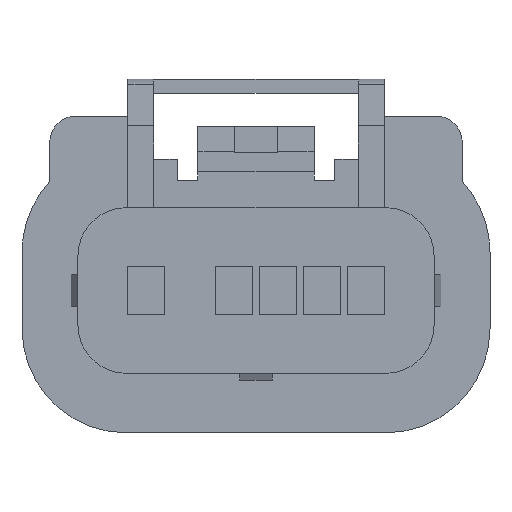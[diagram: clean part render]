
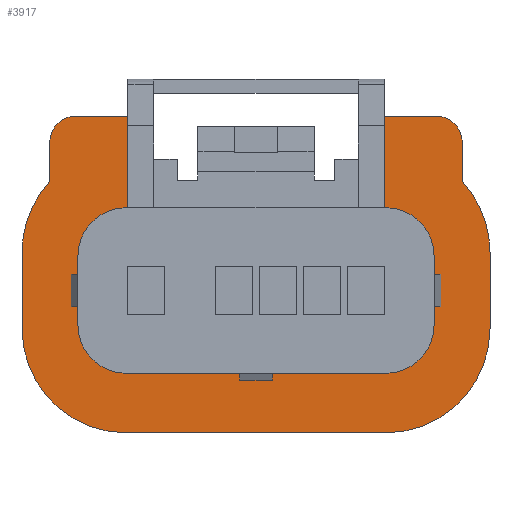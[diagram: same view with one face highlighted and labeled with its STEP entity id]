
A CAD part, left-side view. The second image highlights one B-rep face of the part: STEP entity #3917.
In plain terms, the highlighted planar face has unit normal (-1, 0, 0).
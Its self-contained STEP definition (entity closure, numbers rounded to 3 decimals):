
#690=CARTESIAN_POINT('Axis2P3D Location',(-19.88,0.,0.)) ;
#2587=CARTESIAN_POINT('Vertex',(-19.88,-7.4,12.99)) ;
#2590=CARTESIAN_POINT('Line Origine',(-19.88,-7.4,15.625)) ;
#2594=CARTESIAN_POINT('Vertex',(-19.88,-7.4,18.26)) ;
#2623=CARTESIAN_POINT('Vertex',(-19.88,7.4,18.26)) ;
#2626=CARTESIAN_POINT('Line Origine',(-19.88,7.4,15.625)) ;
#2630=CARTESIAN_POINT('Vertex',(-19.88,7.4,12.99)) ;
#2655=CARTESIAN_POINT('Line Origine',(-19.88,8.9,18.26)) ;
#2659=CARTESIAN_POINT('Vertex',(-19.88,10.4,18.26)) ;
#2674=CARTESIAN_POINT('Line Origine',(-19.88,-8.9,18.26)) ;
#2678=CARTESIAN_POINT('Vertex',(-19.88,-10.4,18.26)) ;
#2698=CARTESIAN_POINT('Axis2P3D Location',(-19.88,-10.4,16.76)) ;
#2702=CARTESIAN_POINT('Vertex',(-19.88,-11.9,16.76)) ;
#2722=CARTESIAN_POINT('Line Origine',(-19.88,-11.9,15.627)) ;
#2726=CARTESIAN_POINT('Vertex',(-19.88,-11.9,14.493)) ;
#2750=CARTESIAN_POINT('Vertex',(-19.88,-13.5,10.41)) ;
#2753=CARTESIAN_POINT('Axis2P3D Location',(-19.88,-7.49,10.41)) ;
#2770=CARTESIAN_POINT('Line Origine',(-19.88,-13.5,8.21)) ;
#2774=CARTESIAN_POINT('Vertex',(-19.88,-13.5,6.01)) ;
#2802=CARTESIAN_POINT('Vertex',(-19.88,13.5,6.01)) ;
#2805=CARTESIAN_POINT('Line Origine',(-19.88,13.5,8.21)) ;
#2809=CARTESIAN_POINT('Vertex',(-19.88,13.5,10.41)) ;
#2837=CARTESIAN_POINT('Vertex',(-19.88,11.9,14.493)) ;
#2840=CARTESIAN_POINT('Axis2P3D Location',(-19.88,7.49,10.41)) ;
#2857=CARTESIAN_POINT('Line Origine',(-19.88,11.9,15.627)) ;
#2861=CARTESIAN_POINT('Vertex',(-19.88,11.9,16.76)) ;
#2881=CARTESIAN_POINT('Axis2P3D Location',(-19.88,10.4,16.76)) ;
#2902=CARTESIAN_POINT('Vertex',(-19.88,-7.49,0.)) ;
#2905=CARTESIAN_POINT('Axis2P3D Location',(-19.88,-7.49,6.01)) ;
#2926=CARTESIAN_POINT('Vertex',(-19.88,7.49,0.)) ;
#2929=CARTESIAN_POINT('Line Origine',(-19.88,0.,0.)) ;
#2946=CARTESIAN_POINT('Axis2P3D Location',(-19.88,7.49,6.01)) ;
#3159=CARTESIAN_POINT('Vertex',(-19.88,-10.27,6.21)) ;
#3162=CARTESIAN_POINT('Line Origine',(-19.88,-10.27,8.21)) ;
#3166=CARTESIAN_POINT('Vertex',(-19.88,-10.27,10.21)) ;
#3224=CARTESIAN_POINT('Vertex',(-19.88,-7.49,3.43)) ;
#3227=CARTESIAN_POINT('Axis2P3D Location',(-19.88,-7.49,6.21)) ;
#3248=CARTESIAN_POINT('Vertex',(-19.88,7.49,3.43)) ;
#3251=CARTESIAN_POINT('Line Origine',(-19.88,0.,3.43)) ;
#3306=CARTESIAN_POINT('Vertex',(-19.88,10.27,6.21)) ;
#3309=CARTESIAN_POINT('Axis2P3D Location',(-19.88,7.49,6.21)) ;
#3330=CARTESIAN_POINT('Vertex',(-19.88,10.27,10.21)) ;
#3333=CARTESIAN_POINT('Line Origine',(-19.88,10.27,8.21)) ;
#3388=CARTESIAN_POINT('Vertex',(-19.88,7.49,12.99)) ;
#3391=CARTESIAN_POINT('Axis2P3D Location',(-19.88,7.49,10.21)) ;
#3403=CARTESIAN_POINT('Line Origine',(-19.88,7.445,12.99)) ;
#3419=CARTESIAN_POINT('Vertex',(-19.88,-7.49,12.99)) ;
#3422=CARTESIAN_POINT('Line Origine',(-19.88,-7.445,12.99)) ;
#3439=CARTESIAN_POINT('Axis2P3D Location',(-19.88,-7.49,10.21)) ;
#691=DIRECTION('Axis2P3D Direction',(1.,0.,0.)) ;
#692=DIRECTION('Axis2P3D XDirection',(0.,1.,0.)) ;
#2591=DIRECTION('Vector Direction',(0.,0.,-1.)) ;
#2627=DIRECTION('Vector Direction',(0.,0.,-1.)) ;
#2656=DIRECTION('Vector Direction',(0.,1.,0.)) ;
#2675=DIRECTION('Vector Direction',(0.,1.,0.)) ;
#2699=DIRECTION('Axis2P3D Direction',(-1.,0.,0.)) ;
#2723=DIRECTION('Vector Direction',(0.,0.,1.)) ;
#2754=DIRECTION('Axis2P3D Direction',(1.,0.,0.)) ;
#2771=DIRECTION('Vector Direction',(0.,0.,-1.)) ;
#2806=DIRECTION('Vector Direction',(0.,0.,1.)) ;
#2841=DIRECTION('Axis2P3D Direction',(1.,0.,0.)) ;
#2858=DIRECTION('Vector Direction',(0.,0.,-1.)) ;
#2882=DIRECTION('Axis2P3D Direction',(-1.,0.,0.)) ;
#2906=DIRECTION('Axis2P3D Direction',(1.,0.,0.)) ;
#2930=DIRECTION('Vector Direction',(0.,-1.,0.)) ;
#2947=DIRECTION('Axis2P3D Direction',(1.,0.,0.)) ;
#3163=DIRECTION('Vector Direction',(0.,0.,1.)) ;
#3228=DIRECTION('Axis2P3D Direction',(1.,0.,0.)) ;
#3252=DIRECTION('Vector Direction',(0.,-1.,0.)) ;
#3310=DIRECTION('Axis2P3D Direction',(1.,0.,0.)) ;
#3334=DIRECTION('Vector Direction',(0.,0.,-1.)) ;
#3392=DIRECTION('Axis2P3D Direction',(1.,0.,0.)) ;
#3404=DIRECTION('Vector Direction',(0.,1.,0.)) ;
#3423=DIRECTION('Vector Direction',(0.,1.,0.)) ;
#3440=DIRECTION('Axis2P3D Direction',(1.,0.,0.)) ;
#693=AXIS2_PLACEMENT_3D('Plane Axis2P3D',#690,#691,#692) ;
#2700=AXIS2_PLACEMENT_3D('Circle Axis2P3D',#2698,#2699,$) ;
#2755=AXIS2_PLACEMENT_3D('Circle Axis2P3D',#2753,#2754,$) ;
#2842=AXIS2_PLACEMENT_3D('Circle Axis2P3D',#2840,#2841,$) ;
#2883=AXIS2_PLACEMENT_3D('Circle Axis2P3D',#2881,#2882,$) ;
#2907=AXIS2_PLACEMENT_3D('Circle Axis2P3D',#2905,#2906,$) ;
#2948=AXIS2_PLACEMENT_3D('Circle Axis2P3D',#2946,#2947,$) ;
#3229=AXIS2_PLACEMENT_3D('Circle Axis2P3D',#3227,#3228,$) ;
#3311=AXIS2_PLACEMENT_3D('Circle Axis2P3D',#3309,#3310,$) ;
#3393=AXIS2_PLACEMENT_3D('Circle Axis2P3D',#3391,#3392,$) ;
#3441=AXIS2_PLACEMENT_3D('Circle Axis2P3D',#3439,#3440,$) ;
#3892=ORIENTED_EDGE('',*,*,#2885,.F.) ;
#3893=ORIENTED_EDGE('',*,*,#2863,.T.) ;
#3894=ORIENTED_EDGE('',*,*,#2844,.F.) ;
#3895=ORIENTED_EDGE('',*,*,#2811,.F.) ;
#3896=ORIENTED_EDGE('',*,*,#2950,.F.) ;
#3897=ORIENTED_EDGE('',*,*,#2933,.T.) ;
#3898=ORIENTED_EDGE('',*,*,#2909,.F.) ;
#3899=ORIENTED_EDGE('',*,*,#2776,.F.) ;
#3900=ORIENTED_EDGE('',*,*,#2757,.F.) ;
#3901=ORIENTED_EDGE('',*,*,#2728,.T.) ;
#3902=ORIENTED_EDGE('',*,*,#2704,.F.) ;
#3903=ORIENTED_EDGE('',*,*,#2680,.T.) ;
#3904=ORIENTED_EDGE('',*,*,#2596,.T.) ;
#3905=ORIENTED_EDGE('',*,*,#3426,.F.) ;
#3906=ORIENTED_EDGE('',*,*,#3443,.T.) ;
#3907=ORIENTED_EDGE('',*,*,#3168,.F.) ;
#3908=ORIENTED_EDGE('',*,*,#3231,.T.) ;
#3909=ORIENTED_EDGE('',*,*,#3255,.F.) ;
#3910=ORIENTED_EDGE('',*,*,#3313,.T.) ;
#3911=ORIENTED_EDGE('',*,*,#3337,.F.) ;
#3912=ORIENTED_EDGE('',*,*,#3395,.T.) ;
#3913=ORIENTED_EDGE('',*,*,#3407,.F.) ;
#3914=ORIENTED_EDGE('',*,*,#2632,.F.) ;
#3915=ORIENTED_EDGE('',*,*,#2661,.T.) ;
#2592=VECTOR('Line Direction',#2591,1.) ;
#2628=VECTOR('Line Direction',#2627,1.) ;
#2657=VECTOR('Line Direction',#2656,1.) ;
#2676=VECTOR('Line Direction',#2675,1.) ;
#2724=VECTOR('Line Direction',#2723,1.) ;
#2772=VECTOR('Line Direction',#2771,1.) ;
#2807=VECTOR('Line Direction',#2806,1.) ;
#2859=VECTOR('Line Direction',#2858,1.) ;
#2931=VECTOR('Line Direction',#2930,1.) ;
#3164=VECTOR('Line Direction',#3163,1.) ;
#3253=VECTOR('Line Direction',#3252,1.) ;
#3335=VECTOR('Line Direction',#3334,1.) ;
#3405=VECTOR('Line Direction',#3404,1.) ;
#3424=VECTOR('Line Direction',#3423,1.) ;
#3917=ADVANCED_FACE('BODY',(#3916),#694,.F.) ;
#2701=CIRCLE('generated circle',#2700,1.5) ;
#2756=CIRCLE('generated circle',#2755,6.01) ;
#2843=CIRCLE('generated circle',#2842,6.01) ;
#2884=CIRCLE('generated circle',#2883,1.5) ;
#2908=CIRCLE('generated circle',#2907,6.01) ;
#2949=CIRCLE('generated circle',#2948,6.01) ;
#3230=CIRCLE('generated circle',#3229,2.78) ;
#3312=CIRCLE('generated circle',#3311,2.78) ;
#3394=CIRCLE('generated circle',#3393,2.78) ;
#3442=CIRCLE('generated circle',#3441,2.78) ;
#2596=EDGE_CURVE('',#2595,#2588,#2593,.T.) ;
#2632=EDGE_CURVE('',#2624,#2631,#2629,.T.) ;
#2661=EDGE_CURVE('',#2624,#2660,#2658,.T.) ;
#2680=EDGE_CURVE('',#2679,#2595,#2677,.T.) ;
#2704=EDGE_CURVE('',#2679,#2703,#2701,.F.) ;
#2728=EDGE_CURVE('',#2727,#2703,#2725,.T.) ;
#2757=EDGE_CURVE('',#2727,#2751,#2756,.T.) ;
#2776=EDGE_CURVE('',#2751,#2775,#2773,.T.) ;
#2811=EDGE_CURVE('',#2803,#2810,#2808,.T.) ;
#2844=EDGE_CURVE('',#2810,#2838,#2843,.T.) ;
#2863=EDGE_CURVE('',#2862,#2838,#2860,.T.) ;
#2885=EDGE_CURVE('',#2862,#2660,#2884,.F.) ;
#2909=EDGE_CURVE('',#2775,#2903,#2908,.T.) ;
#2933=EDGE_CURVE('',#2927,#2903,#2932,.T.) ;
#2950=EDGE_CURVE('',#2927,#2803,#2949,.T.) ;
#3168=EDGE_CURVE('',#3160,#3167,#3165,.T.) ;
#3231=EDGE_CURVE('',#3160,#3225,#3230,.T.) ;
#3255=EDGE_CURVE('',#3249,#3225,#3254,.T.) ;
#3313=EDGE_CURVE('',#3249,#3307,#3312,.T.) ;
#3337=EDGE_CURVE('',#3331,#3307,#3336,.T.) ;
#3395=EDGE_CURVE('',#3331,#3389,#3394,.T.) ;
#3407=EDGE_CURVE('',#2631,#3389,#3406,.T.) ;
#3426=EDGE_CURVE('',#3420,#2588,#3425,.T.) ;
#3443=EDGE_CURVE('',#3420,#3167,#3442,.T.) ;
#3891=EDGE_LOOP('',(#3892,#3893,#3894,#3895,#3896,#3897,#3898,#3899,#3900,#3901,#3902,#3903,#3904,#3905,#3906,#3907,#3908,#3909,#3910,#3911,#3912,#3913,#3914,#3915)) ;
#3916=FACE_OUTER_BOUND('',#3891,.T.) ;
#2593=LINE('Line',#2590,#2592) ;
#2629=LINE('Line',#2626,#2628) ;
#2658=LINE('Line',#2655,#2657) ;
#2677=LINE('Line',#2674,#2676) ;
#2725=LINE('Line',#2722,#2724) ;
#2773=LINE('Line',#2770,#2772) ;
#2808=LINE('Line',#2805,#2807) ;
#2860=LINE('Line',#2857,#2859) ;
#2932=LINE('Line',#2929,#2931) ;
#3165=LINE('Line',#3162,#3164) ;
#3254=LINE('Line',#3251,#3253) ;
#3336=LINE('Line',#3333,#3335) ;
#3406=LINE('Line',#3403,#3405) ;
#3425=LINE('Line',#3422,#3424) ;
#694=PLANE('',#693) ;
#2588=VERTEX_POINT('',#2587) ;
#2595=VERTEX_POINT('',#2594) ;
#2624=VERTEX_POINT('',#2623) ;
#2631=VERTEX_POINT('',#2630) ;
#2660=VERTEX_POINT('',#2659) ;
#2679=VERTEX_POINT('',#2678) ;
#2703=VERTEX_POINT('',#2702) ;
#2727=VERTEX_POINT('',#2726) ;
#2751=VERTEX_POINT('',#2750) ;
#2775=VERTEX_POINT('',#2774) ;
#2803=VERTEX_POINT('',#2802) ;
#2810=VERTEX_POINT('',#2809) ;
#2838=VERTEX_POINT('',#2837) ;
#2862=VERTEX_POINT('',#2861) ;
#2903=VERTEX_POINT('',#2902) ;
#2927=VERTEX_POINT('',#2926) ;
#3160=VERTEX_POINT('',#3159) ;
#3167=VERTEX_POINT('',#3166) ;
#3225=VERTEX_POINT('',#3224) ;
#3249=VERTEX_POINT('',#3248) ;
#3307=VERTEX_POINT('',#3306) ;
#3331=VERTEX_POINT('',#3330) ;
#3389=VERTEX_POINT('',#3388) ;
#3420=VERTEX_POINT('',#3419) ;
